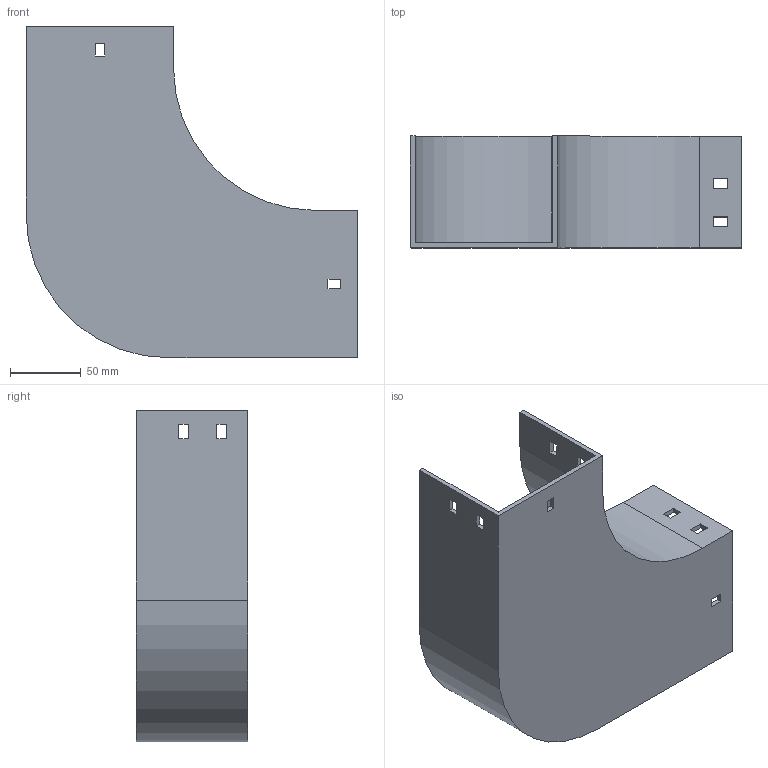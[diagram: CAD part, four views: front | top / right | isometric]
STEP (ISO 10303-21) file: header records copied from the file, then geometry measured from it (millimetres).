
FILE_DESCRIPTION (( 'STEP AP214' ), '1' );
FILE_NAME ('10F1C100.step', '2025-02-21T12:57:25', ( '' ), ( '' ), 'SwSTEP 2.0', 'SolidWorks 2023', '' );
FILE_SCHEMA (( 'AUTOMOTIVE_DESIGN' ));
Length unit declared in the file: millimetre
Products named in the file (1): 10F1C100
Bounding box: 234 x 79 x 234 mm (x, y, z)
Volume: 299817.1 mm3; surface area: 176525.6 mm2
Topology: 1 solids, 1 shells, 58 faces, 168 edges, 112 vertices
Faces by surface type: plane 54, cylinder 4
Entity records: 1943 total; most frequent: CARTESIAN_POINT 339, ORIENTED_EDGE 336, DIRECTION 294, EDGE_CURVE 168, LINE 160, VECTOR 160, VERTEX_POINT 112, EDGE_LOOP 78
